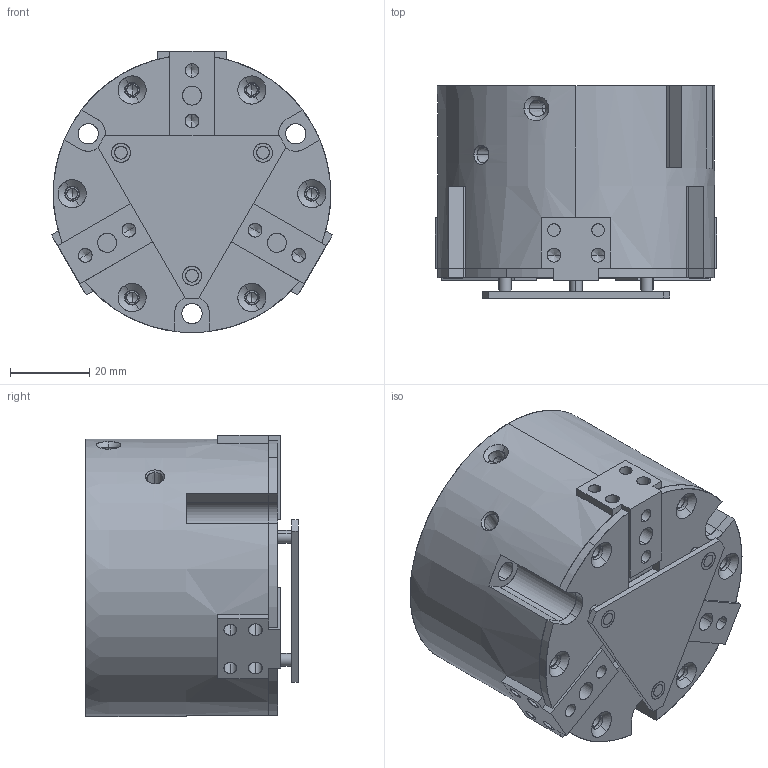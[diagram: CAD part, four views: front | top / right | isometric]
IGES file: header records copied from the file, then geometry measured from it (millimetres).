
Start section: SolidWorks IGES file using analytic representation for surfaces
Global section: file name: C:\Users\jmkuhnes\Pictures\My Transfers\AGP-43\AGP-43 CLOSED in IN.IGS; native system: SolidWorks 2013; preprocessor: SolidWorks 2013; author: jmkuhnes; date: 141105.081433; units: inch
Bounding box: 70.76 x 53.43 x 70.74 mm (x, y, z)
Surface area: 41428.4 mm2 (no closed solid volume)
Topology: 0 solids, 0 shells, 325 faces, 5016 edges, 4976 vertices
Faces by surface type: revolution 194, bspline 131
